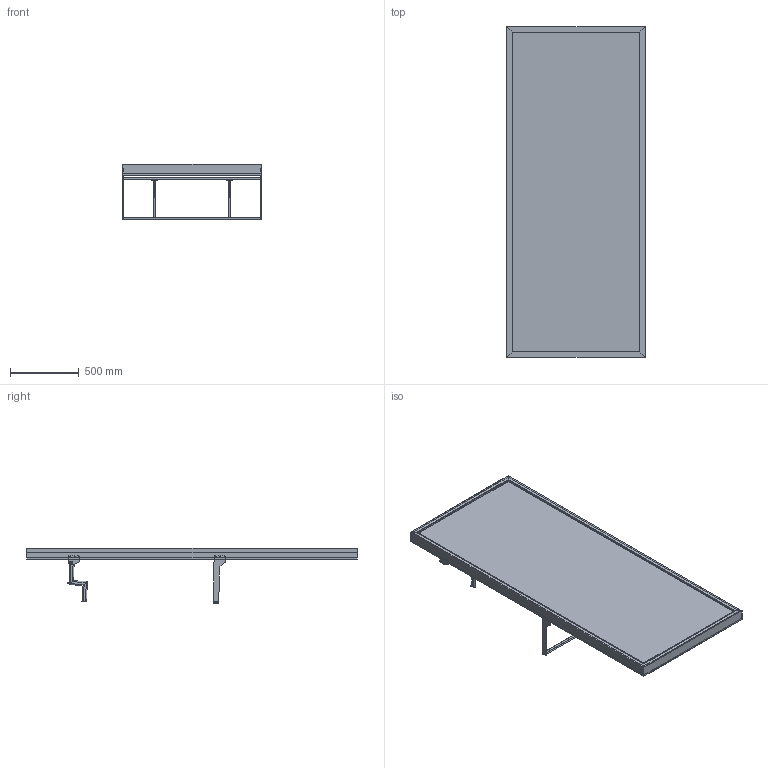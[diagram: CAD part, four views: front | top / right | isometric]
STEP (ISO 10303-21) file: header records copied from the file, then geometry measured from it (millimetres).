
FILE_DESCRIPTION (( 'STEP AP214' ), '1' );
FILE_NAME ('Slotted UpBright? Golf Pro Shop Apparel Wall (Config 3).STEP', '2026-03-30T17:16:32', ( '' ), ( '' ), 'SwSTEP 2.0', 'SolidWorks 2025', '' );
FILE_SCHEMA (( 'AUTOMOTIVE_DESIGN' ));
Length unit declared in the file: millimetre
Products named in the file (15): 0001-31-107; 0001-31-130; 0001-31-SA24 - Step Arm; 0001-31-104; 0001-31-GA10 - 1005W Slotted upbright; 0001-31-108; 0001-31-121; 0001-31-SA25 - 1005W Side Facing D Rail; 0001-31-131; 0001-31-SA26 - 1005W Rear support Bar; 0001-31-109; 0001-31-100; 0001-31-110; 0001-31-103; Slotted UpBright® Golf Pro Shop Apparel Wall (Config 3)
Assembly tree (17 placements, depth 3):
  Slotted UpBright® Golf Pro Shop Apparel Wall (Config 3)
    0001-31-GA10 - 1005W Slotted upbright
    0001-31-SA26 - 1005W Rear support Bar
      0001-31-103  x2
      0001-31-131
    0001-31-SA25 - 1005W Side Facing D Rail
      0001-31-100  x2
      0001-31-130
    0001-31-SA24 - Step Arm  x2
      0001-31-104
      0001-31-107
      0001-31-108
      0001-31-109
      0001-31-110
      0001-31-121
Bounding box: 1005.74 x 2400 x 404.75 mm (x, y, z)
Volume: 8385613.1 mm3; surface area: 12416739.8 mm2
Topology: 24 solids, 24 shells, 916 faces, 3056 edges, 2036 vertices
Faces by surface type: plane 752, cylinder 160, torus 4
Entity records: 29735 total; most frequent: CARTESIAN_POINT 5811, ORIENTED_EDGE 5366, DIRECTION 4229, EDGE_CURVE 2683, LINE 2457, VECTOR 2457, VERTEX_POINT 1788, EDGE_LOOP 953
